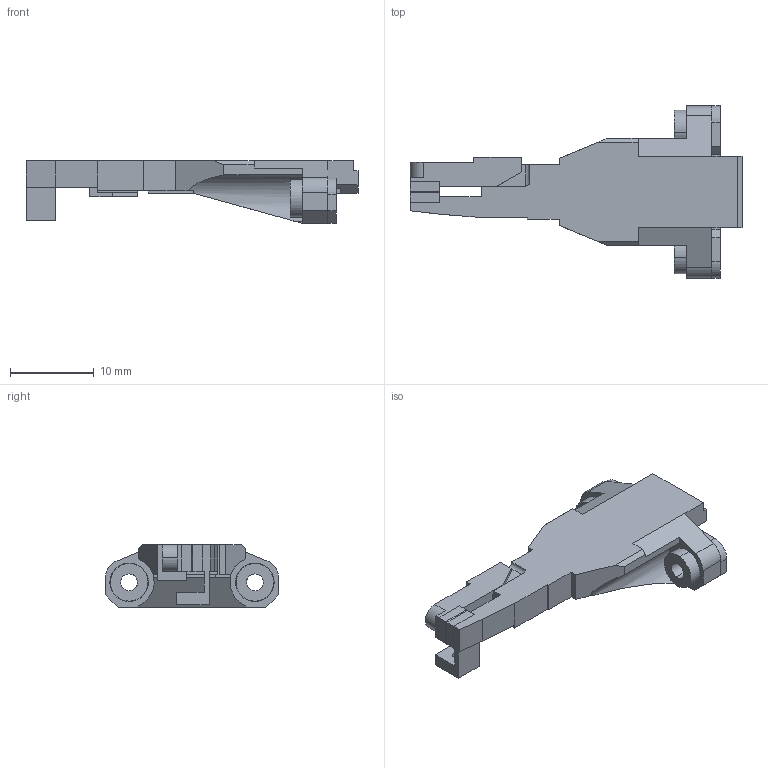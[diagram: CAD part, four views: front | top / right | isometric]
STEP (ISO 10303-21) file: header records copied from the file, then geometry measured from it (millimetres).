
FILE_DESCRIPTION (( 'STEP AP203' ), '1' );
FILE_NAME ('测绘压电钳装配体外形尺寸图.STEP', '2023-11-23T01:55:52', ( 'daohangxitong.com' ), ( 'daohangxitong.com' ), 'SwSTEP 2.0', 'SolidWorks 2016', '' );
FILE_SCHEMA (( 'CONFIG_CONTROL_DESIGN' ));
Length unit declared in the file: millimetre
Products named in the file (6): 惘坒え; 揤萸ヵ儂凳; ǯָ; 橈埽赽; 橈埽え; 测绘压电钳装配体外形尺寸图
Assembly tree (7 placements, depth 2):
  测绘压电钳装配体外形尺寸图
    揤萸ヵ儂凳
    ǯָ
    橈埽赽  x2
    橈埽え
    惘坒え  x2
Bounding box: 39.6 x 20.6 x 7.5 mm (x, y, z)
Volume: 1809.2 mm3; surface area: 2073.5 mm2
Topology: 7 solids, 9 shells, 183 faces, 471 edges, 309 vertices
Faces by surface type: plane 140, cylinder 43
Entity records: 5826 total; most frequent: CARTESIAN_POINT 920, ORIENTED_EDGE 878, DIRECTION 865, EDGE_CURVE 439, LINE 357, VECTOR 357, VERTEX_POINT 289, AXIS2_PLACEMENT_3D 254
